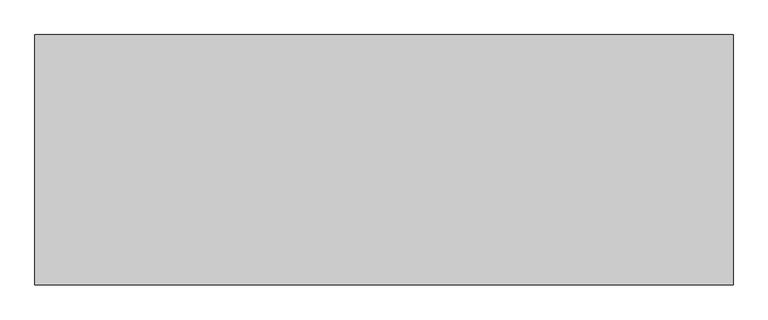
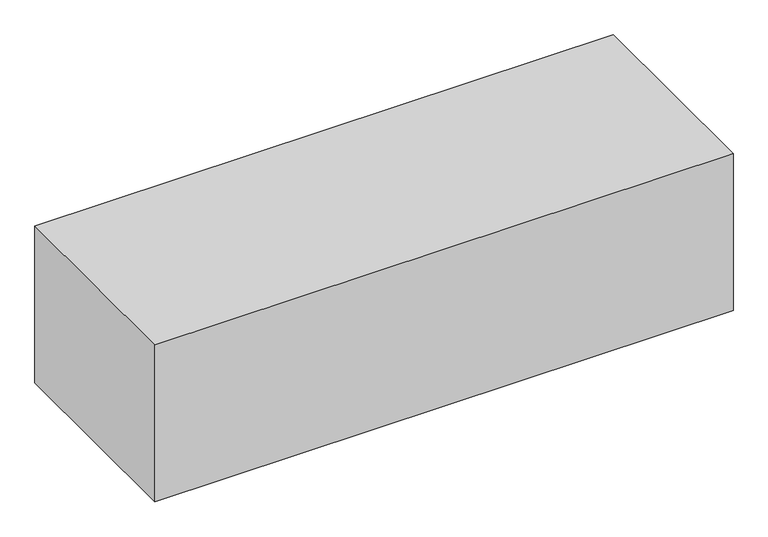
"""IFC4 building model written with IfcOpenShell, lengths in millimetres: geographic element geometry, r 低木密植 : 低木密植."""

from ifc_helpers import new_model, si_unit, origin, origin_with_axes, place, context, project, spatial, polyline, outline, extrude, source, transform, mapped, element, save


def geographic_element_c6e1ca96(model_context):
    return source(origin(), model_context, "Body", "SweptSolid", [
        extrude(outline(polyline([(0.0, 0.0), (0.0, 500.0), (1393.736664, 500.0), (1393.736664, 0.0), (0.0, 0.0)])), origin_with_axes(), (0.0, 0.0, 1.0), 400.0),
    ])


if __name__ == "__main__":
    model = new_model("IFC4")
    model_context = context("Model", 3, world=origin())
    ifc_project = project(units=[si_unit("LENGTHUNIT", "METRE", prefix="MILLI")], contexts=[model_context])
    site = spatial("IfcSite", under=ifc_project)
    building = spatial("IfcBuilding", under=site)
    placement = place(None, origin())
    geographic_element_shape = geographic_element_c6e1ca96(model_context)
    element("IfcGeographicElement", 1, ObjectType="r 低木密植 : 低木密植", at=placement, inside=building, context=model_context, shape_type="MappedRepresentation", body=[
        mapped(geographic_element_shape, transform((0.0, 0.0, 0.0), x_axis=(1.0, 0.0, 0.0), y_axis=(0.0, 1.0, 0.0), z_axis=(0.0, 0.0, 1.0))),
    ])
    save(model, "model.ifc")
